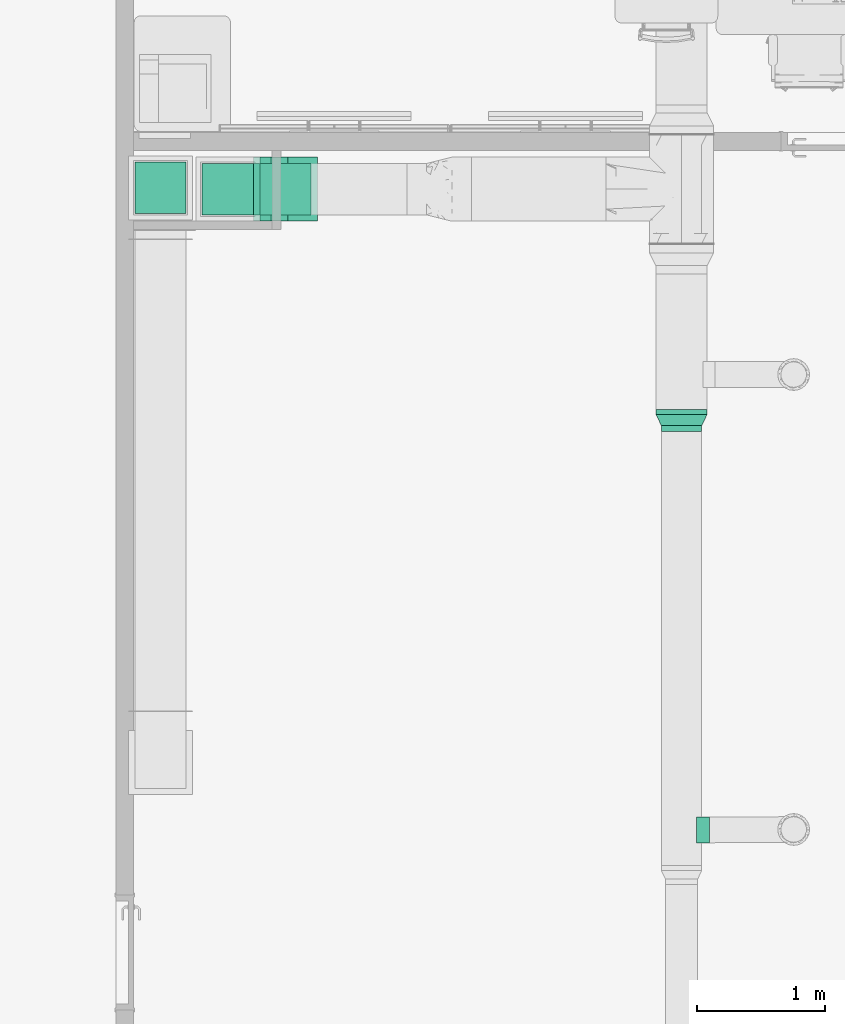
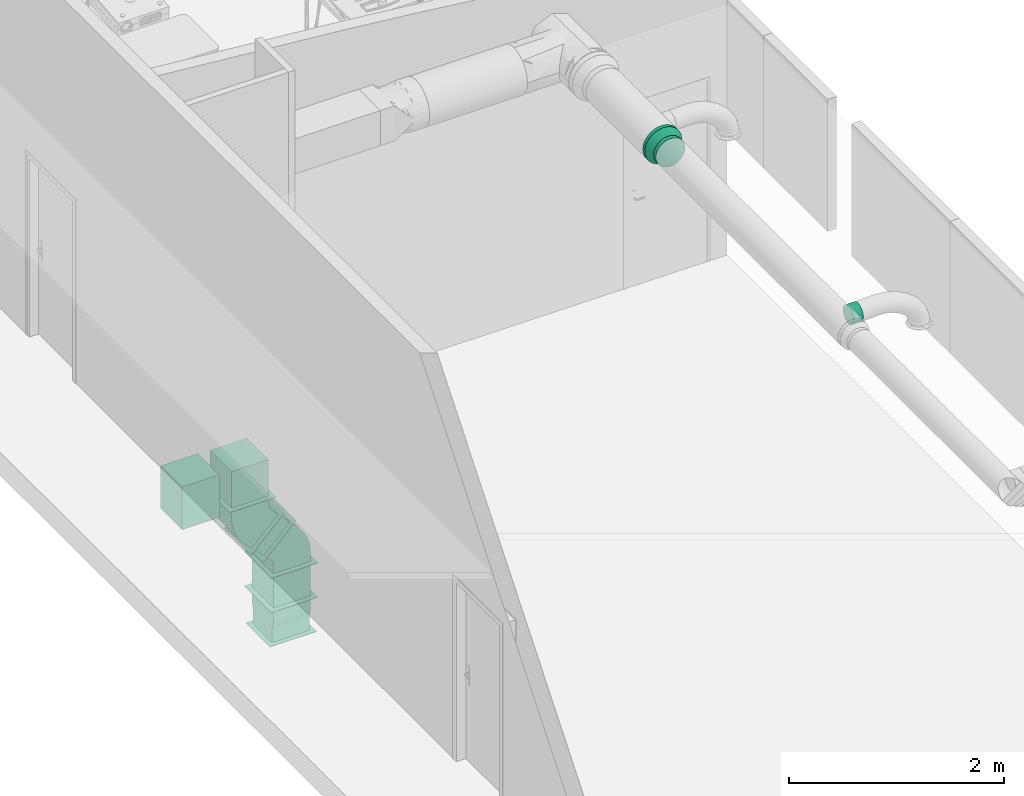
# One storey, part 10 of 31: 5 flow fittings, 4 flow segments.
"""IFC2X3 building model written with IfcOpenShell, lengths in millimetres."""

from ifc_helpers import new_model, entity, si_unit, converted_unit, derived_unit, direction, frame, frame_2d, origin, origin_2d_with_axis, place, context, subcontext, project, spatial, polyline, circle_curve, parameter, trimmed, segment, composite_curve, rectangle, circle, outline, extrude, faceted_brep, source, transform, mapped, material, material_list, type_object, type_shapes, element, save


model = new_model("IFC2X3")

# Units and contexts
model_context = context("Model", 3, precision=0.01, world=origin(), true_north=direction((6.123031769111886e-17, 1.0)))
body_context = subcontext(model_context, "Body", "Model", "MODEL_VIEW")
ifc_project = project(units=[si_unit("LENGTHUNIT", "METRE", prefix="MILLI"), si_unit("AREAUNIT", "SQUARE_METRE"), si_unit("VOLUMEUNIT", "CUBIC_METRE"), converted_unit("PLANEANGLEUNIT", "DEGREE", entity("IfcRatioMeasure", 0.017453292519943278), si_unit("PLANEANGLEUNIT", "RADIAN"), dimensions=[0, 0, 0, 0, 0, 0, 0]), si_unit("MASSUNIT", "GRAM", prefix="KILO"), derived_unit("MASSDENSITYUNIT", [(si_unit("MASSUNIT", "GRAM", prefix="KILO"), 1), (si_unit("LENGTHUNIT", "METRE"), -3)]), derived_unit("MOMENTOFINERTIAUNIT", [(si_unit("LENGTHUNIT", "METRE"), 4)]), si_unit("TIMEUNIT", "SECOND"), si_unit("FREQUENCYUNIT", "HERTZ"), si_unit("THERMODYNAMICTEMPERATUREUNIT", "DEGREE_CELSIUS"), derived_unit("THERMALTRANSMITTANCEUNIT", [(si_unit("MASSUNIT", "GRAM", prefix="KILO"), 1), (si_unit("THERMODYNAMICTEMPERATUREUNIT", "KELVIN"), -1), (si_unit("TIMEUNIT", "SECOND"), -3)]), derived_unit("VOLUMETRICFLOWRATEUNIT", [(si_unit("LENGTHUNIT", "METRE"), 3), (si_unit("TIMEUNIT", "SECOND"), -1)]), derived_unit("MASSFLOWRATEUNIT", [(si_unit("MASSUNIT", "GRAM", prefix="KILO"), 1), (si_unit("TIMEUNIT", "SECOND"), -1)]), derived_unit("ROTATIONALFREQUENCYUNIT", [(si_unit("TIMEUNIT", "SECOND"), -1)]), si_unit("ELECTRICCURRENTUNIT", "AMPERE"), si_unit("ELECTRICVOLTAGEUNIT", "VOLT"), si_unit("POWERUNIT", "WATT"), si_unit("FORCEUNIT", "NEWTON", prefix="KILO"), si_unit("ILLUMINANCEUNIT", "LUX"), si_unit("LUMINOUSFLUXUNIT", "LUMEN"), si_unit("LUMINOUSINTENSITYUNIT", "CANDELA"), derived_unit("USERDEFINED", [(si_unit("MASSUNIT", "GRAM", prefix="KILO"), -1), (si_unit("LENGTHUNIT", "METRE"), -2), (si_unit("TIMEUNIT", "SECOND"), 3), (si_unit("LUMINOUSFLUXUNIT", "LUMEN"), 1)]), derived_unit("SOUNDPOWERUNIT", [(si_unit("MASSUNIT", "GRAM", prefix="KILO"), 1), (si_unit("LENGTHUNIT", "METRE"), 2), (si_unit("TIMEUNIT", "SECOND"), -3)]), derived_unit("SOUNDPRESSUREUNIT", [(si_unit("MASSUNIT", "GRAM", prefix="KILO"), 1), (si_unit("LENGTHUNIT", "METRE"), -1), (si_unit("TIMEUNIT", "SECOND"), -2)]), derived_unit("LINEARVELOCITYUNIT", [(si_unit("LENGTHUNIT", "METRE"), 1), (si_unit("TIMEUNIT", "SECOND"), -1)]), si_unit("PRESSUREUNIT", "PASCAL"), derived_unit("USERDEFINED", [(si_unit("LENGTHUNIT", "METRE"), -2), (si_unit("MASSUNIT", "GRAM", prefix="KILO"), 1), (si_unit("TIMEUNIT", "SECOND"), -2)]), derived_unit("LINEARFORCEUNIT", [(si_unit("MASSUNIT", "GRAM", prefix="KILO"), 1), (si_unit("LENGTHUNIT", "METRE"), 1), (si_unit("TIMEUNIT", "SECOND"), -2), (si_unit("LENGTHUNIT", "METRE"), -1)]), derived_unit("PLANARFORCEUNIT", [(si_unit("MASSUNIT", "GRAM", prefix="KILO"), 1), (si_unit("LENGTHUNIT", "METRE"), 1), (si_unit("TIMEUNIT", "SECOND"), -2), (si_unit("LENGTHUNIT", "METRE"), -2)])], contexts=[model_context])

# Site, building, storey
site_placement = place(None, origin())
site = spatial("IfcSite", under=ifc_project, at=site_placement, Name="Default", CompositionType="ELEMENT")
building_placement = place(site_placement, origin())
building = spatial("IfcBuilding", under=site, at=building_placement, CompositionType="ELEMENT")
storey_placement = place(building_placement, frame((0.0, 0.0, 3880.0)))
storey = spatial("IfcBuildingStorey", under=building, at=storey_placement, Name="Niveau 1", CompositionType="ELEMENT", Elevation=3880.0)

# Flow fittings
ifc_material = material(Name="<Unnamed>")
ifc_material_list_1 = material_list([ifc_material, ifc_material, ifc_material])
ifc_material_list_2 = material_list([ifc_material, ifc_material, ifc_material])
duct_fitting_type_1 = type_object("IfcDuctFittingType", Name="Circul - Std - Reduction conique - ALDES - STANDARD - (Ba) (1):Standard", PredefinedType="NOTDEFINED", material=ifc_material_list_2)
shared_shape_1 = source(origin(), body_context, "Body", "Brep", [
    faceted_brep([(89.0, 0.0, 157.49999999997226), (89.0, 40.76399960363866, 152.13331764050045), (89.0, 78.74999999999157, 136.39900109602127), (89.0, 111.36931803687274, 111.3693180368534), (89.0, 136.39900109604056, 78.74999999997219), (89.0, 152.1333176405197, 40.76399960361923), (89.0, 157.49999999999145, 0.0), (89.0, 152.13331764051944, -40.76399960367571), (89.0, 136.39900109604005, -78.75000000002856), (89.0, 111.36931803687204, -111.36931803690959), (89.0, 78.74999999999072, -136.39900109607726), (89.0, 40.763999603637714, -152.1333176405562), (89.0, 0.0, -157.50000000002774), (89.0, -40.76399960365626, -152.13331764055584), (89.0, -78.7500000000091, -136.39900109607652), (89.0, -111.36931803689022, -111.36931803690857), (89.0, -136.39900109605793, -78.75000000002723), (89.0, -152.13331764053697, -40.763999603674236), (89.0, -157.50000000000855, 0.0), (89.0, -152.1333176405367, 40.76399960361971), (89.0, -136.39900109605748, 78.7499999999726), (89.0, -111.36931803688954, 111.36931803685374), (89.0, -78.75000000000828, 136.39900109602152), (89.0, -40.76399960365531, 152.13331764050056), (134.0, 0.0, -157.50000000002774), (134.0, 40.76399960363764, -152.1333176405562), (134.0, 78.74999999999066, -136.39900109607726), (134.0, 111.36931803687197, -111.36931803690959), (134.0, 136.39900109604, -78.75000000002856), (134.0, 152.13331764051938, -40.76399960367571), (134.0, 157.49999999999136, 0.0), (134.0, 152.13331764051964, 40.76399960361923), (134.0, 136.3990010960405, 78.74999999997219), (134.0, 111.36931803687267, 111.3693180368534), (134.0, 78.7499999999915, 136.39900109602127), (134.0, 40.763999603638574, 152.13331764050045), (134.0, 0.0, 157.49999999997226), (134.0, -40.763999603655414, 152.13331764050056), (134.0, -78.75000000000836, 136.39900109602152), (134.0, -111.36931803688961, 111.36931803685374), (134.0, -136.39900109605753, 78.7499999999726), (134.0, -152.13331764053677, 40.76399960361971), (134.0, -157.5000000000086, 0.0), (134.0, -152.13331764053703, -40.763999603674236), (134.0, -136.39900109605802, -78.75000000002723), (134.0, -111.36931803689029, -111.36931803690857), (134.0, -78.75000000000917, -136.39900109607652), (134.0, -40.76399960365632, -152.13331764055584)], [[[0, 1, 2, 3, 4, 5, 6, 7, 8, 9, 10, 11, 12, 13, 14, 15, 16, 17, 18, 19, 20, 21, 22, 23]], [[24, 25, 26, 27, 28, 29, 30, 31, 32, 33, 34, 35, 36, 37, 38, 39, 40, 41, 42, 43, 44, 45, 46, 47]], [[17, 43, 42, 18]], [[16, 44, 43, 17]], [[46, 45, 15, 14]], [[16, 15, 45, 44]], [[47, 46, 14, 13]], [[24, 47, 13, 12]], [[11, 25, 24, 12]], [[10, 26, 25, 11]], [[28, 27, 9, 8]], [[10, 9, 27, 26]], [[29, 28, 8, 7]], [[30, 29, 7, 6]], [[5, 31, 30, 6]], [[4, 32, 31, 5]], [[34, 33, 3, 2]], [[4, 3, 33, 32]], [[35, 34, 2, 1]], [[36, 35, 1, 0]], [[37, 36, 0, 23]], [[40, 20, 19, 41]], [[20, 40, 39, 21]], [[41, 19, 18, 42]], [[23, 22, 38, 37]], [[38, 22, 21, 39]]]),
    faceted_brep([(0.0, 70.92097740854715, -187.00324853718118), (0.0, 113.61294934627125, -164.59677317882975), (0.0, 149.70214963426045, -132.62453164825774), (0.0, 177.09120513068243, -92.94463440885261), (0.0, 194.18836348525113, -47.8631328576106), (0.0, 200.0, 0.0), (0.0, 194.18836348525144, 47.86313285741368), (0.0, 177.09120513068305, 92.9446344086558), (0.0, 149.70214963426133, 132.6245316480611), (0.0, 113.61294934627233, 164.59677317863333), (0.0, 70.9209774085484, 187.00324853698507), (0.0, 24.10733605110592, 198.54177481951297), (0.0, -24.107336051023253, 198.54177481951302), (0.0, -70.92097740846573, 187.00324853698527), (0.0, -113.61294934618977, 164.59677317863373), (0.0, -149.70214963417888, 132.62453164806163), (0.0, -177.0912051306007, 92.94463440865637), (0.0, -194.18836348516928, 47.863132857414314), (0.0, -200.0, 0.0), (0.0, -194.18836348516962, -47.86313285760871), (0.0, -177.09120513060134, -92.94463440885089), (0.0, -149.7021496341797, -132.6245316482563), (0.0, -113.61294934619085, -164.5967731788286), (0.0, -70.92097740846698, -187.00324853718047), (0.0, -24.10733605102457, -198.5417748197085), (0.0, 24.107336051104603, -198.54177481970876), (-39.0, 24.10733605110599, 198.54177481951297), (-39.0, 70.92097740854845, 187.00324853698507), (-39.0, 113.6129493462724, 164.59677317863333), (-39.0, 149.70214963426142, 132.6245316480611), (-39.0, 177.0912051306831, 92.9446344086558), (-39.0, 194.18836348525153, 47.86313285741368), (-39.0, 200.0, 0.0), (-39.0, 194.18836348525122, -47.8631328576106), (-39.0, 177.0912051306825, -92.94463440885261), (-39.0, 149.70214963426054, -132.62453164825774), (-39.0, 113.61294934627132, -164.59677317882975), (-39.0, 70.9209774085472, -187.00324853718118), (-39.0, 24.10733605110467, -198.54177481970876), (-39.0, -24.107336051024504, -198.5417748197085), (-39.0, -70.92097740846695, -187.00324853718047), (-39.0, -113.61294934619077, -164.5967731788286), (-39.0, -149.70214963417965, -132.6245316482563), (-39.0, -177.09120513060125, -92.94463440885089), (-39.0, -194.18836348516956, -47.86313285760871), (-39.0, -200.0, 0.0), (-39.0, -194.18836348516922, 47.863132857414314), (-39.0, -177.09120513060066, 92.94463440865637), (-39.0, -149.70214963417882, 132.62453164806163), (-39.0, -113.6129493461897, 164.59677317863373), (-39.0, -70.92097740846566, 187.00324853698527), (-39.0, -24.107336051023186, 198.54177481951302)], [[[0, 1, 2, 3, 4, 5, 6, 7, 8, 9, 10, 11, 12, 13, 14, 15, 16, 17, 18, 19, 20, 21, 22, 23, 24, 25]], [[26, 27, 28, 29, 30, 31, 32, 33, 34, 35, 36, 37, 38, 39, 40, 41, 42, 43, 44, 45, 46, 47, 48, 49, 50, 51]], [[44, 19, 18, 45]], [[43, 20, 19, 44]], [[22, 21, 42, 41]], [[41, 40, 23, 22]], [[43, 42, 21, 20]], [[39, 24, 23, 40]], [[39, 38, 25, 24]], [[37, 0, 25, 38]], [[36, 1, 0, 37]], [[4, 3, 34, 33]], [[33, 32, 5, 4]], [[36, 35, 2, 1]], [[35, 34, 3, 2]], [[31, 6, 5, 32]], [[30, 7, 6, 31]], [[9, 8, 29, 28]], [[28, 27, 10, 9]], [[30, 29, 8, 7]], [[26, 11, 10, 27]], [[26, 51, 12, 11]], [[14, 13, 50, 49]], [[51, 50, 13, 12]], [[47, 46, 17, 16]], [[15, 48, 47, 16]], [[14, 49, 48, 15]], [[17, 46, 45, 18]]]),
    faceted_brep([(89.0, -40.76399960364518, -152.13331764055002), (89.0, 0.0, -157.500000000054), (89.0, 40.76399960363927, -152.13331764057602), (89.0, 78.74999999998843, -136.39900109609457), (89.0, 111.36931803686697, -111.36931803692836), (89.0, 136.3990010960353, -78.75000000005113), (89.0, 152.13331764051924, -40.76399960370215), (89.0, 157.4999999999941, 0.0), (89.0, 152.1333176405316, 40.76399960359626), (89.0, 136.3990010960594, 78.74999999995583), (89.0, 111.3693180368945, 111.36931803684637), (89.0, 78.75000000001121, 136.39900109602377), (89.0, 40.763999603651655, 152.1333176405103), (89.0, 0.0, 157.49999999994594), (89.0, -40.76399960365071, 152.1333176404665), (89.0, -78.74999999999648, 136.39900109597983), (89.0, -111.36931803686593, 111.36931803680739), (89.0, -136.39900109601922, 78.74999999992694), (89.0, -152.13331764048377, 40.7639996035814), (89.0, -157.5000000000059, 0.0), (89.0, -152.13331764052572, -40.76399960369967), (89.0, -136.3990010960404, -78.75000000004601), (89.0, -111.3693180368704, -111.36931803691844), (89.0, -78.74999999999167, -136.39900109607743), (0.0, -200.0, 0.0), (0.0, -194.98558243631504, 44.5041867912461), (0.0, -180.19377358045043, 86.77674782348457), (0.0, -156.3662964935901, 124.69796037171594), (0.0, -124.69796037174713, 156.36629649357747), (0.0, -86.7767478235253, 180.19377358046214), (0.0, -44.50418679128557, 194.98558243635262), (0.0, 0.0, 200.0), (0.0, 44.50418679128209, 194.98558243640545), (0.0, 86.77674782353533, 180.193773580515), (0.0, 124.69796037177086, 156.36629649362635), (0.0, 156.36629649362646, 124.69796037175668), (0.0, 180.19377358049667, 86.7767478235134), (0.0, 194.98558243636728, 44.50418679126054), (0.0, 200.0, 0.0), (0.0, 194.98558243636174, -44.50418679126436), (0.0, 180.19377358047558, -86.77674782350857), (0.0, 156.36629649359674, -124.69796037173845), (0.0, 124.69796037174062, -156.36629649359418), (0.0, 86.77674782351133, -180.19377358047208), (0.0, 44.50418679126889, -194.98558243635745), (0.0, 0.0, -200.0), (0.0, -44.50418679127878, -194.98558243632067), (0.0, -86.77674782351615, -180.19377358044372), (0.0, -124.69796037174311, -156.36629649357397), (0.0, -156.36629649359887, -124.6979603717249), (0.0, -180.1937735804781, -86.77674782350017), (0.0, -194.98558243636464, -44.504186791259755)], [[[0, 1, 2, 3, 4, 5, 6, 7, 8, 9, 10, 11, 12, 13, 14, 15, 16, 17, 18, 19, 20, 21, 22, 23]], [[24, 25, 26, 27, 28, 29, 30, 31, 32, 33, 34, 35, 36, 37, 38, 39, 40, 41, 42, 43, 44, 45, 46, 47, 48, 49, 50, 51]], [[12, 11, 33]], [[13, 12, 32]], [[31, 13, 32]], [[32, 12, 33]], [[11, 34, 33]], [[11, 10, 34]], [[35, 10, 9]], [[8, 7, 37]], [[36, 9, 8]], [[36, 35, 9]], [[37, 36, 8]], [[7, 38, 37]], [[10, 35, 34]], [[18, 17, 26]], [[19, 18, 25]], [[24, 19, 25]], [[25, 18, 26]], [[17, 27, 26]], [[17, 16, 27]], [[28, 16, 15]], [[14, 13, 30]], [[29, 15, 14]], [[29, 28, 15]], [[30, 29, 14]], [[13, 31, 30]], [[16, 28, 27]], [[0, 23, 47]], [[1, 0, 46]], [[45, 1, 46]], [[46, 0, 47]], [[23, 48, 47]], [[23, 22, 48]], [[49, 22, 21]], [[20, 19, 51]], [[50, 21, 20]], [[50, 49, 21]], [[51, 50, 20]], [[19, 24, 51]], [[22, 49, 48]], [[6, 5, 40]], [[7, 6, 39]], [[38, 7, 39]], [[39, 6, 40]], [[5, 41, 40]], [[5, 4, 41]], [[42, 4, 3]], [[2, 1, 44]], [[43, 3, 2]], [[43, 42, 3]], [[44, 43, 2]], [[1, 45, 44]], [[4, 42, 41]]]),
])
type_shapes(duct_fitting_type_1, [shared_shape_1])
flow_fitting_1_placement = place(storey_placement, frame((-2195.0, -16330.0, 3150.0), z_axis=(0.0, 0.0, 1.0), x_axis=(0.0, -1.0, 0.0)))
element("IfcFlowFitting", 1, at=flow_fitting_1_placement, inside=storey, type_object=duct_fitting_type_1, material=ifc_material_list_1, Name="Circul - Std - Reduction conique - ALDES - STANDARD - (Ba) (1):Standard", ObjectType="Circul - Std - Reduction conique - ALDES - STANDARD - (Ba) (1):Standard", context=body_context, shape_type="MappedRepresentation", body=[
    mapped(shared_shape_1, transform((0.0, 0.0, 0.0), scale=1.0)),
])
ifc_material_list_3 = material_list([ifc_material, ifc_material, ifc_material])
ifc_material_list_4 = material_list([ifc_material, ifc_material, ifc_material])
duct_fitting_type_2 = type_object("IfcDuctFittingType", Name="Piquage Aldes:Standard", PredefinedType="NOTDEFINED", material=ifc_material_list_4)
shared_shape_2 = source(origin(), body_context, "Body", "SweptSolid", [
    extrude(circle(Radius=99.99999999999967, at=frame_2d((-2.057646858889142e-13, -7.948734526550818e-14), x_axis=(1.0, 0.0))), frame((10.581850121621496, 0.0, 0.0), z_axis=(1.0, 0.0, 0.0), x_axis=(0.0, -1.0, 0.0)), (0.0, 0.0, 1.0), 50.00000000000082),
    extrude(circle(Radius=99.99999999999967, at=frame_2d((-2.057646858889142e-13, -7.948734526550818e-14), x_axis=(1.0, 0.0))), frame((0.0, 0.0, 0.0), z_axis=(1.0, 0.0, 0.0), x_axis=(0.0, -1.0, 0.0)), (0.0, 0.0, 1.0), 10.581850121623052),
    extrude(circle(Radius=99.99999999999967, at=frame_2d((-2.0704010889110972e-13, -8.266180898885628e-14), x_axis=(1.0, 0.0))), frame((-41.9156710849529, 0.0, 0.0), z_axis=(1.0, 0.0, 0.0), x_axis=(0.0, -1.0, 0.0)), (0.0, 0.0, 1.0), 41.9156710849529),
])
type_shapes(duct_fitting_type_2, [shared_shape_2])
flow_fitting_2_placement = place(storey_placement, frame((-2037.5000000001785, -19574.174774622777, 3150.0), z_axis=(0.0, 0.0, -1.0), x_axis=(0.9999830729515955, 0.005818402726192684, 0.0)))
element("IfcFlowFitting", 2, at=flow_fitting_2_placement, inside=storey, type_object=duct_fitting_type_2, material=ifc_material_list_3, Name="Piquage Aldes:Standard", ObjectType="Piquage Aldes:Standard", context=body_context, shape_type="MappedRepresentation", body=[
    mapped(shared_shape_2, transform((0.0, 0.0, 0.0), scale=1.0)),
])

# Flow segments
duct_segment_type = type_object("IfcDuctSegmentType", Name="Gaine rectangulaire:Té / Coude à rayon bridé", PredefinedType="NOTDEFINED")
flow_segment_1_placement = place(storey_placement, origin())
element("IfcFlowSegment", 3, at=flow_segment_1_placement, inside=storey, type_object=duct_segment_type, Name="Gaine rectangulaire:Té / Coude à rayon bridé", ObjectType="Gaine rectangulaire:Té / Coude à rayon bridé", context=body_context, shape_type="SweptSolid", body=[
    extrude(rectangle(XDim=400.0000000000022, YDim=399.9999999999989, at=origin_2d_with_axis()), frame((-5735.742523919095, -14573.552532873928, -605.7359312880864), z_axis=(0.0, 0.0, 1.0), x_axis=(0.0, 1.0, 0.0)), (0.0, 0.0, 1.0), 413.53102015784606),
])
flow_segment_2_placement = place(storey_placement, origin())
element("IfcFlowSegment", 4, at=flow_segment_2_placement, inside=storey, type_object=duct_segment_type, Name="Gaine rectangulaire:Té / Coude à rayon bridé", ObjectType="Gaine rectangulaire:Té / Coude à rayon bridé", context=body_context, shape_type="SweptSolid", body=[
    extrude(rectangle(XDim=400.0000000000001, YDim=177.86796564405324, at=frame_2d((0.0, 0.0), x_axis=(0.0, 1.0))), frame((-5510.742523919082, -14773.552532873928, -1060.0), z_axis=(0.0, 1.0, 0.0), x_axis=(0.7071067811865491, 0.0, -0.7071067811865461)), (0.0, 0.0, 1.0), 399.9999999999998),
])
flow_segment_3_placement = place(storey_placement, origin())
element("IfcFlowSegment", 5, at=flow_segment_3_placement, inside=storey, type_object=duct_segment_type, Name="Gaine rectangulaire:Té / Coude à rayon bridé", ObjectType="Gaine rectangulaire:Té / Coude à rayon bridé", context=body_context, shape_type="SweptSolid", body=[
    extrude(rectangle(XDim=399.9999999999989, YDim=400.0000000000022, at=origin_2d_with_axis()), frame((-5285.742523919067, -14573.552532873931, -1900.0)), (0.0, 0.0, 1.0), 385.7359312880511),
])
flow_segment_4_placement = place(storey_placement, origin())
element("IfcFlowSegment", 6, at=flow_segment_4_placement, inside=storey, type_object=duct_segment_type, Name="Gaine rectangulaire:Té / Coude à rayon bridé", ObjectType="Gaine rectangulaire:Té / Coude à rayon bridé", context=body_context, shape_type="SweptSolid", body=[
    extrude(rectangle(XDim=400.0, YDim=400.0, at=origin_2d_with_axis()), frame((-6260.5365580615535, -14562.945337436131, -675.0)), (0.0, 0.0, 1.0), 485.0899464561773),
])

# Flow fittings
ifc_material_list_5 = material_list([ifc_material, ifc_material, ifc_material, ifc_material, ifc_material])
ifc_material_list_6 = material_list([ifc_material, ifc_material, ifc_material, ifc_material, ifc_material])
duct_fitting_type_3 = type_object("IfcDuctFittingType", Name="Coude rectangulaire - Rayon constant - Bridé:100 R", PredefinedType="NOTDEFINED", material=ifc_material_list_6)
shared_shape_3 = source(origin(), body_context, "Body", "SweptSolid", [
    extrude(rectangle(XDim=104.99999999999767, YDim=400.0000000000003, at=frame_2d((4.618527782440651e-14, -4.263256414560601e-14), x_axis=(1.0, 0.0))), frame((124.99107165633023, 124.9910716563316, -200.0), z_axis=(0.0, 0.0, 1.0), x_axis=(0.7071067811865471, 0.7071067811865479, 0.0)), (0.0, 0.0, 1.0), 400.0),
    extrude(rectangle(XDim=400.0, YDim=104.9999999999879, at=frame_2d((1.6626700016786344e-12, 0.0), x_axis=(1.0, 0.0))), frame((-176.76406871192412, 0.0, -200.0), z_axis=(0.0, 0.0, 1.0), x_axis=(0.0, -1.0, 0.0)), (0.0, 0.0, 1.0), 400.0),
    extrude(outline(composite_curve([segment(polyline([(-243.93398282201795, -106.06601717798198), (156.06601717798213, -106.0660171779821)]), True, "CONTINUOUS"), segment(trimmed(circle_curve(frame_2d((256.0660171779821, -106.06601717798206), x_axis=(-0.7071067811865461, 0.7071067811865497)), 99.99999999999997), [parameter(0.0)], [parameter(45.00000000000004)], True, "PARAMETER"), False, "CONTINUOUS"), segment(polyline([(185.3553390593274, -35.355339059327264), (-97.48737341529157, 247.4873734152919)]), True, "CONTINUOUS"), segment(trimmed(circle_curve(frame_2d((256.0660171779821, -106.06601717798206), x_axis=(-0.7071067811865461, 0.7071067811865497)), 500.00000000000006), [parameter(0.0)], [parameter(45.00000000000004)], True, "PARAMETER"), True, "CONTINUOUS")], self_intersect=False)), frame((-18.19805153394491, 43.93398282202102, -200.0), z_axis=(0.0, 0.0, 1.0), x_axis=(-0.7071067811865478, 0.7071067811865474, 0.0)), (0.0, 0.0, 1.0), 399.9999999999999),
    extrude(rectangle(XDim=5.000000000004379, YDim=500.00000000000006, at=frame_2d((1.709743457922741e-14, 0.0), x_axis=(1.0, 0.0))), frame((-226.76406871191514, 0.0, -250.0)), (0.0, 0.0, 1.0), 500.00000000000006),
    extrude(rectangle(XDim=4.9999999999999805, YDim=500.0, at=frame_2d((-2.55351295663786e-14, -2.842170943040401e-14), x_axis=(1.0, 0.0))), frame((160.34641071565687, 160.3464107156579, -250.0), z_axis=(0.0, 0.0, 1.0), x_axis=(0.7071067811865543, 0.7071067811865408, 0.0)), (0.0, 0.0, 1.0), 499.9999999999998),
])
type_shapes(duct_fitting_type_3, [shared_shape_3])
flow_fitting_3_placement = place(storey_placement, frame((-5735.742523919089, -14573.552532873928, -835.0), z_axis=(0.0, -1.0, 0.0), x_axis=(0.0, 0.0, -1.0)))
element("IfcFlowFitting", 7, at=flow_fitting_3_placement, inside=storey, type_object=duct_fitting_type_3, material=ifc_material_list_5, Name="Coude rectangulaire - Rayon constant - Bridé:100 R", ObjectType="Coude rectangulaire - Rayon constant - Bridé:100 R", context=body_context, shape_type="MappedRepresentation", body=[
    mapped(shared_shape_3, transform((0.0, 0.0, 0.0), scale=1.0)),
])
flow_fitting_4_placement = place(storey_placement, frame((-5285.74252391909, -14573.552532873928, -1285.0), z_axis=(0.0, 1.0, 0.0), x_axis=(0.7071067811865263, 0.0, -0.7071067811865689)))
element("IfcFlowFitting", 8, at=flow_fitting_4_placement, inside=storey, type_object=duct_fitting_type_3, material=ifc_material, Name="Coude rectangulaire - Rayon constant - Bridé:100 R", ObjectType="Coude rectangulaire - Rayon constant - Bridé:100 R", context=body_context, shape_type="MappedRepresentation", body=[
    mapped(shared_shape_3, transform((0.0, 0.0, 0.0), scale=1.0)),
])
ifc_material_list_7 = material_list([ifc_material, ifc_material, ifc_material, ifc_material, ifc_material])
ifc_material_list_8 = material_list([ifc_material, ifc_material, ifc_material, ifc_material, ifc_material])
duct_fitting_type_4 = type_object("IfcDuctFittingType", Name="Transformation rectangulaire - Bridé:Standard", PredefinedType="NOTDEFINED", material=ifc_material_list_8)
shared_shape_4 = source(origin(), body_context, "Body", "SweptSolid", [
    extrude(rectangle(XDim=154.99999999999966, YDim=399.9999999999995, at=frame_2d((-1.4210854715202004e-14, 0.0), x_axis=(1.0, 0.0))), frame((332.49999999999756, 0.0, -175.0)), (0.0, 0.0, 1.0), 349.99999999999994),
    extrude(outline(polyline([(-97.01425001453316, -181.90171877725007), (6.063390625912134, -181.90171877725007), (90.95085938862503, 157.6481562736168), (0.0, 206.15528128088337), (-97.01425001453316, -181.90171877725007)])), frame((205.0, -200.0, 0.0), z_axis=(0.0, 1.0, 0.0), x_axis=(0.9701425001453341, 0.0, -0.24253562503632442)), (0.0, 0.0, 1.0), 399.9999999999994),
    extrude(rectangle(XDim=155.00000000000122, YDim=399.99999999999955, at=frame_2d((1.4210854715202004e-14, 0.0), x_axis=(1.0, 0.0))), frame((77.50000000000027, 0.0, -200.0)), (0.0, 0.0, 1.0), 400.0),
    extrude(rectangle(XDim=4.999999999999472, YDim=499.9999999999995, at=frame_2d((-3.375077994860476e-14, 0.0), x_axis=(1.0, 0.0))), frame((407.4999999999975, 0.0, -225.0)), (0.0, 0.0, 1.0), 449.99999999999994),
    extrude(rectangle(XDim=5.000000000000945, YDim=499.99999999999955, at=origin_2d_with_axis()), frame((2.5000000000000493, 0.0, -250.0)), (0.0, 0.0, 1.0), 499.9999999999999),
])
type_shapes(duct_fitting_type_4, [shared_shape_4])
flow_fitting_5_placement = place(storey_placement, frame((-5285.742523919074, -14573.55253287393, -1900.0), z_axis=(0.0, 1.0, 0.0), x_axis=(0.0, 0.0, -1.0)))
element("IfcFlowFitting", 9, at=flow_fitting_5_placement, inside=storey, type_object=duct_fitting_type_4, material=ifc_material_list_7, Name="Transformation rectangulaire - Bridé:Standard", ObjectType="Transformation rectangulaire - Bridé:Standard", context=body_context, shape_type="MappedRepresentation", body=[
    mapped(shared_shape_4, transform((0.0, 0.0, 0.0), scale=1.0)),
])

save(model, "model.ifc")
